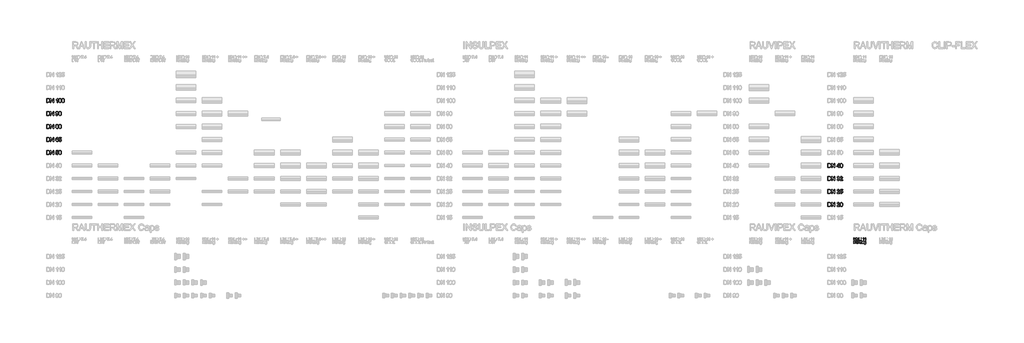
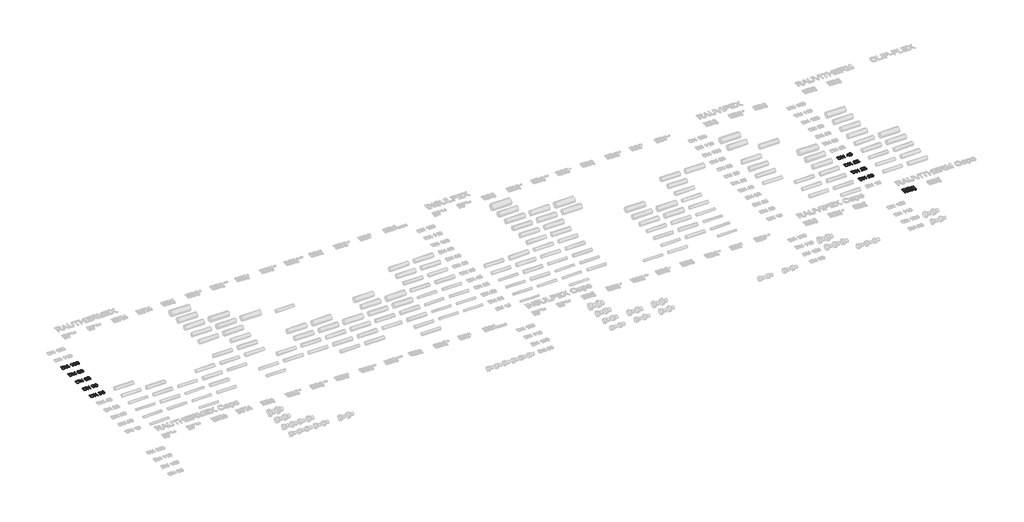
# One storey, part 29 of 44: 10 proxies.
"""IFC4 building model written with IfcOpenShell, lengths in millimetres."""

from ifc_helpers import new_model, si_unit, origin, origin_with_axes, place, context, project, spatial, polyline, outline, extrude, element, save

model = new_model("IFC4")

# Units and contexts
model_context = context("Model", 3, world=origin())
ifc_project = project(units=[si_unit("LENGTHUNIT", "METRE", prefix="MILLI")], contexts=[model_context])

# Site, building, storey
site = spatial("IfcSite", under=ifc_project)
building = spatial("IfcBuilding", under=site)
storey = spatial("IfcBuildingStorey", under=building, Name="REHAU Starting view", Elevation=0.0)

# Proxies
placement = place(None, origin())
element("IfcBuildingElementProxy", 1, Name="100", ObjectType="100", at=placement, inside=storey, context=model_context, shape_type="SweptSolid", body=[
    extrude(outline(polyline([(31076.9118625, 13222.431128), (31089.4689012, 13222.431128), (31089.4689012, 13164.477451), (31086.0598614, 13140.4547567), (31073.7726028, 13125.9847316), (31063.5086951, 13121.8000739), (31050.4734097, 13120.405188), (31027.529836, 13125.2612303), (31019.8901532, 13131.2055902), (31014.8011189, 13139.3265853), (31010.9874089, 13164.477451), (31010.9874089, 13222.431128), (31023.5444477, 13222.431128), (31023.5444477, 13164.9189094), (31026.0215198, 13145.7767829), (31034.5318566, 13136.2976902), (31049.2961874, 13132.9622268), (31062.067824, 13134.6115644), (31070.5597667, 13139.5595772), (31075.3238385, 13149.1980855), (31076.9118625, 13164.9189094), (31076.9118625, 13222.431128)])), origin_with_axes(), (0.0, 0.0, 1.0), 20.0),
    extrude(outline(polyline([(31111.4437191, 13121.9748178), (31111.4437191, 13222.431128), (31124.8836746, 13222.431128), (31177.3681726, 13142.8459897), (31177.3681726, 13222.431128), (31189.9252114, 13222.431128), (31189.9252114, 13121.9748178), (31176.4852558, 13121.9748178), (31124.0007578, 13201.5844816), (31124.0007578, 13121.9748178), (31111.4437191, 13121.9748178)])), origin_with_axes(), (0.0, 0.0, 1.0), 20.0),
    extrude(outline(polyline([(31207.1911397, 13170.8785977), (31210.5388658, 13193.0925389), (31220.5820443, 13209.8986147), (31235.9165921, 13220.4752221), (31255.1384264, 13224.0007578), (31268.3147332, 13222.3452889), (31280.1298766, 13217.3788819), (31289.9400631, 13209.4510249), (31297.1014993, 13198.9112058), (31301.479295, 13186.2683279), (31302.9385603, 13172.0312947), (31301.402653, 13157.6041891), (31296.794931, 13144.7835015), (31289.369846, 13134.2252883), (31279.3818499, 13126.5856055), (31267.667874, 13121.9502924), (31255.06485, 13120.405188), (31241.6862081, 13122.1127736), (31229.8036197, 13127.2355304), (31220.0179586, 13135.3105402), (31212.9300988, 13145.8748848), (31207.1911397, 13170.8785977)]), holes=[polyline([(31219.7481785, 13170.7559704), (31222.2589731, 13155.0412778), (31229.7913569, 13143.0667189), (31241.1129253, 13135.4883498), (31254.9912736, 13132.9622268), (31269.071957, 13135.5128753), (31280.4119195, 13143.1648208), (31287.889121, 13155.5072617), (31290.3815215, 13172.1293965), (31286.1140904, 13192.8534156), (31273.6428907, 13206.575414), (31255.2120028, 13211.4437191), (31241.7046022, 13209.0984714), (31230.2205526, 13202.0627282), (31222.366272, 13189.5455433), (31219.7481785, 13170.7559704)])]), origin_with_axes(), (0.0, 0.0, 1.0), 20.0),
    extrude(outline(polyline([(31401.8252406, 13121.9748178), (31389.2682018, 13121.9748178), (31389.2682018, 13200.2601064), (31377.3733507, 13191.7865578), (31364.1541243, 13185.4467247), (31364.1541243, 13197.3170505), (31382.5604868, 13209.0647488), (31393.7318367, 13222.431128), (31401.8252406, 13222.431128), (31401.8252406, 13121.9748178)])), origin_with_axes(), (0.0, 0.0, 1.0), 20.0),
    extrude(outline(polyline([(31478.7371031, 13121.9748178), (31466.1800643, 13121.9748178), (31466.1800643, 13200.2601064), (31454.2852131, 13191.7865578), (31441.0659868, 13185.4467247), (31441.0659868, 13197.3170505), (31459.4723492, 13209.0647488), (31470.6436992, 13222.431128), (31478.7371031, 13222.431128), (31478.7371031, 13121.9748178)])), origin_with_axes(), (0.0, 0.0, 1.0), 20.0),
    extrude(outline(polyline([(31010.9874089, 13000.0), (31010.9874089, 13100.4563101), (31023.5444477, 13100.4563101), (31023.5444477, 13059.6459342), (31076.9118625, 13059.6459342), (31076.9118625, 13100.4563101), (31089.4689012, 13100.4563101), (31089.4689012, 13000.0), (31076.9118625, 13000.0), (31076.9118625, 13047.0888954), (31023.5444477, 13047.0888954), (31023.5444477, 13000.0), (31010.9874089, 13000.0)])), origin_with_axes(), (0.0, 0.0, 1.0), 20.0),
    extrude(outline(polyline([(31161.5247213, 13021.9748178), (31173.8365055, 13020.405188), (31169.4004617, 13011.1284304), (31162.321799, 13004.1938547), (31152.7599328, 12999.8712413), (31140.8742787, 12998.4303702), (31126.1406048, 13000.9166393), (31114.803708, 13008.3754468), (31107.5748268, 13020.3224146), (31105.1651997, 13036.2731647), (31107.5993522, 13052.7604095), (31114.9018098, 13065.0905877), (31126.0854225, 13072.7793214), (31140.1630402, 13075.3422326), (31153.8022651, 13072.7854527), (31164.7007692, 13065.1151131), (31171.846877, 13052.8094604), (31174.2289129, 13036.3467411), (31174.1553365, 13032.9622268), (31117.7222385, 13032.9622268), (31119.8958079, 13023.5628418), (31124.9449883, 13016.6527916), (31132.2321175, 13012.4037546), (31141.1195333, 13010.9874089), (31153.4313175, 13013.6116338), (31161.5247213, 13021.9748178)]), holes=[polyline([(31117.7222385, 13045.5192655), (31161.6718741, 13045.5192655), (31156.6441535, 13056.8990819), (31149.3233018, 13061.3136659), (31140.1139892, 13062.7851938), (31124.6506827, 13058.088567), (31119.7854433, 13052.5979283), (31117.7222385, 13045.5192655)])]), origin_with_axes(), (0.0, 0.0, 1.0), 20.0),
    extrude(outline(polyline([(31233.8748471, 13009.4177791), (31221.697953, 13000.9074423), (31208.2457347, 12998.4303702), (31197.7519008, 12999.9202922), (31190.0110505, 13004.3900585), (31185.2377816, 13011.1774813), (31183.646692, 13019.6203731), (31186.0501877, 13029.5531869), (31192.3654953, 13036.7636741), (31201.157875, 13040.8839524), (31212.0226566, 13042.7724133), (31233.8012707, 13047.0888954), (31233.8748471, 13049.8847985), (31230.4167563, 13059.1554248), (31216.5353424, 13062.7851938), (31203.8311508, 13060.3694354), (31197.7733606, 13051.7977849), (31185.2163218, 13053.3674148), (31190.6487126, 13065.6301479), (31201.5870706, 13072.8161096), (31218.1540231, 13075.3422326), (31233.372075, 13073.1104152), (31241.968251, 13067.5063461), (31245.8187492, 13058.9837466), (31246.4318858, 13047.9963376), (31246.4318858, 13032.3736156), (31247.069548, 13010.5582133), (31249.5711455, 13000.0), (31237.0141068, 13000.0), (31233.8748471, 13009.4177791)]), holes=[polyline([(31233.8748471, 13034.5318566), (31213.6168119, 13030.6813584), (31202.8133439, 13028.6457447), (31197.9205134, 13025.3348067), (31196.2037308, 13020.5032899), (31199.9438644, 13013.7097357), (31210.9190106, 13010.9874089), (31223.6232021, 13013.9917785), (31231.8147079, 13021.2635793), (31233.8012707, 13030.975664), (31233.8748471, 13034.5318566)])]), origin_with_axes(), (0.0, 0.0, 1.0), 20.0),
    extrude(outline(polyline([(31290.3815215, 13010.4723741), (31291.9511514, 12999.632118), (31282.5578978, 12998.4303702), (31272.0364727, 13000.5150348), (31266.7880229, 13005.9842138), (31265.267444, 13020.2335097), (31265.267444, 13061.215564), (31255.8496649, 13061.215564), (31255.8496649, 13073.7726028), (31265.267444, 13073.7726028), (31265.267444, 13091.7007187), (31277.8244828, 13099.082884), (31277.8244828, 13073.7726028), (31290.3815215, 13073.7726028), (31290.3815215, 13061.215564), (31277.8244828, 13061.215564), (31277.8244828, 13020.6013917), (31278.4866703, 13014.1266686), (31280.6326487, 13011.8335375), (31284.9123425, 13010.9874089), (31290.3815215, 13010.4723741)])), origin_with_axes(), (0.0, 0.0, 1.0), 20.0),
    extrude(outline(polyline([(31302.9385603, 13087.8992714), (31302.9385603, 13100.4563101), (31315.4955991, 13100.4563101), (31315.4955991, 13087.8992714), (31302.9385603, 13087.8992714)])), origin_with_axes(), (0.0, 0.0, 1.0), 20.0),
    extrude(outline(polyline([(31302.9385603, 13000.0), (31302.9385603, 13073.7726028), (31315.4955991, 13073.7726028), (31315.4955991, 13000.0), (31302.9385603, 13000.0)])), origin_with_axes(), (0.0, 0.0, 1.0), 20.0),
    extrude(outline(polyline([(31334.3311572, 13000.0), (31334.3311572, 13073.7726028), (31346.888196, 13073.7726028), (31346.888196, 13063.4719069), (31356.4899161, 13072.3746512), (31369.5987778, 13075.3422326), (31381.4568408, 13072.9509996), (31389.5502447, 13066.6724803), (31393.3149038, 13057.4386422), (31393.9770914, 13045.2985363), (31393.9770914, 13000.0), (31381.4200526, 13000.0), (31381.4200526, 13043.6062792), (31379.9730501, 13054.7163154), (31374.8594904, 13060.5901646), (31366.2387889, 13062.7851938), (31352.6148924, 13057.8555751), (31348.3198701, 13050.712533), (31346.888196, 13039.1426443), (31346.888196, 13000.0), (31334.3311572, 13000.0)])), origin_with_axes(), (0.0, 0.0, 1.0), 20.0),
    extrude(outline(polyline([(31408.10376, 12993.7214806), (31420.6607988, 12992.1518508), (31424.7320262, 12985.5299749), (31436.9211829, 12982.7340717), (31449.7725273, 12985.8978569), (31455.9038939, 12994.7760757), (31456.7622852, 13009.4177791), (31447.9208546, 13002.3544448), (31437.1419121, 13000.0), (31424.1955316, 13002.7407209), (31414.5416949, 13010.9628835), (31408.5360213, 13023.0171502), (31406.5341301, 13037.2541834), (31410.127111, 13056.7151409), (31420.5259087, 13070.4861903), (31436.5287755, 13075.3422326), (31447.7307822, 13072.5953804), (31456.7622852, 13064.3548237), (31456.7622852, 13073.7726028), (31469.319324, 13073.7726028), (31469.319324, 13010.0799667), (31465.8857587, 12985.6893904), (31455.0087144, 12974.3463622), (31436.6759283, 12970.1770329), (31424.9926092, 12971.6454952), (31415.7924937, 12976.0508821), (31409.8910533, 12983.4054563), (31408.10376, 12993.7214806)]), holes=[polyline([(31419.0911689, 13038.1125747), (31420.4308725, 13026.5948026), (31424.4499833, 13018.6761426), (31430.4924451, 13014.0868147), (31437.9022016, 13012.5570388), (31445.2567758, 13014.0776177), (31451.3298944, 13018.6393544), (31455.4041875, 13026.4568468), (31456.7622852, 13037.7446927), (31455.3643336, 13048.6309341), (31451.1704789, 13056.4698863), (31445.0084555, 13061.2063669), (31437.7059979, 13062.7851938), (31430.5353646, 13061.2308924), (31424.5235597, 13056.5679881), (31420.4492666, 13048.8455319), (31419.0911689, 13038.1125747)])]), origin_with_axes(), (0.0, 0.0, 1.0), 20.0),
])
element("IfcBuildingElementProxy", 2, Name="150", ObjectType="150", at=placement, inside=storey, context=model_context, shape_type="SweptSolid", body=[
    extrude(outline(polyline([(16.4811134, 16425.0), (16.4811134, 16575.6844652), (68.4628393, 16575.6844652), (95.3550131, 16573.5139615), (117.5015093, 16562.735019), (127.9217668, 16551.2571007), (135.343786, 16536.9832793), (139.7859611, 16520.1894663), (141.2666861, 16501.151573), (137.2567724, 16470.7461261), (126.9560765, 16448.8019651), (113.1972899, 16435.135149), (95.1894663, 16427.575174), (70.9644369, 16425.0), (16.4811134, 16425.0)]), holes=[polyline([(35.3166715, 16443.8355582), (68.6467803, 16443.8355582), (92.8902038, 16446.5578849), (106.8697196, 16454.2466186), (118.3292437, 16472.9534181), (122.431128, 16501.4458786), (120.4215726, 16521.9736939), (114.3929064, 16537.1304321), (105.4855636, 16547.5414926), (94.8399784, 16553.8322747), (68.1317455, 16556.8489071), (35.3166715, 16556.8489071), (35.3166715, 16443.8355582)])]), origin_with_axes(), (0.0, 0.0, 1.0), 20.0),
    extrude(outline(polyline([(167.1655786, 16425.0), (167.1655786, 16575.6844652), (187.3255119, 16575.6844652), (266.0522589, 16456.3067578), (266.0522589, 16575.6844652), (284.8878171, 16575.6844652), (284.8878171, 16425.0), (264.7278837, 16425.0), (186.0011368, 16544.4144956), (186.0011368, 16425.0), (167.1655786, 16425.0)])), origin_with_axes(), (0.0, 0.0, 1.0), 20.0),
    extrude(outline(polyline([(369.6478288, 16465.0255611), (388.4833869, 16467.3800058), (391.9414777, 16456.072233), (397.9747424, 16447.9742306), (406.5555899, 16443.1043927), (417.6564291, 16441.4811134), (431.1576983, 16443.7389891), (441.2744532, 16450.5126164), (447.5928265, 16461.0202459), (449.6989509, 16474.4801284), (447.7261837, 16487.1536631), (441.8078821, 16496.8473537), (431.8980609, 16503.00018), (417.9507347, 16505.0511222), (401.414439, 16501.7769724), (390.8378317, 16493.2788983), (372.0022735, 16495.6333431), (388.4833869, 16573.3300205), (461.4711747, 16573.3300205), (461.4711747, 16554.4944623), (403.7137015, 16554.4944623), (395.6570858, 16512.9973732), (409.1123698, 16521.1643535), (423.2114473, 16523.8866803), (440.8100022, 16520.511363), (455.4195159, 16510.3854111), (465.2557608, 16494.9527614), (468.5345091, 16475.6573507), (465.582256, 16456.8217926), (456.725497, 16440.7085612), (439.766137, 16427.1613067), (417.5828527, 16422.6455552), (399.0829869, 16425.5472245), (384.3447145, 16434.2522322), (374.2417552, 16447.7489029), (369.6478288, 16465.0255611)])), origin_with_axes(), (0.0, 0.0, 1.0), 20.0),
    extrude(outline(polyline([(485.0156224, 16499.128222), (486.3997784, 16523.2474853), (490.5522465, 16542.4831152), (497.4316398, 16557.1294171), (506.9965717, 16567.4806967), (519.31602, 16573.6335231), (534.4589626, 16575.6844652), (556.4583059, 16570.8284229), (571.6518323, 16556.830513), (580.4810002, 16534.5368641), (583.9023027, 16499.128222), (582.5319423, 16475.1469145), (578.420861, 16455.9572699), (571.5828544, 16441.2971724), (562.0317181, 16430.904506), (549.6846787, 16424.7102929), (534.4589626, 16422.6455552), (514.8876404, 16426.2324047), (500.0252078, 16436.992953), (488.7680188, 16462.4779783), (485.0156224, 16499.128222)]), holes=[polyline([(503.8511806, 16499.1650102), (506.0584726, 16469.536714), (512.6803485, 16452.3888145), (522.5395859, 16444.2080387), (534.4589626, 16441.4811134), (546.3783392, 16444.2172357), (556.2375767, 16452.4256027), (562.8594526, 16469.5826993), (565.0667446, 16499.1650102), (562.933029, 16528.1265203), (556.5318823, 16545.407777), (546.6910389, 16553.9886246), (534.2382334, 16556.8489071), (522.4476155, 16554.3289154), (512.9746541, 16546.7689404), (506.132049, 16528.4116288), (503.8511806, 16499.1650102)])]), origin_with_axes(), (0.0, 0.0, 1.0), 20.0),
])
element("IfcBuildingElementProxy", 3, Name="150", ObjectType="150", at=placement, inside=storey, context=model_context, shape_type="SweptSolid", body=[
    extrude(outline(polyline([(16.4811134, 16925.0), (16.4811134, 17075.6844652), (68.4628393, 17075.6844652), (95.3550131, 17073.5139615), (117.5015093, 17062.735019), (127.9217668, 17051.2571007), (135.343786, 17036.9832793), (139.7859611, 17020.1894663), (141.2666861, 17001.151573), (137.2567724, 16970.7461261), (126.9560765, 16948.8019651), (113.1972899, 16935.135149), (95.1894663, 16927.575174), (70.9644369, 16925.0), (16.4811134, 16925.0)]), holes=[polyline([(35.3166715, 16943.8355582), (68.6467803, 16943.8355582), (92.8902038, 16946.5578849), (106.8697196, 16954.2466186), (118.3292437, 16972.9534181), (122.431128, 17001.4458786), (120.4215726, 17021.9736939), (114.3929064, 17037.1304321), (105.4855636, 17047.5414926), (94.8399784, 17053.8322747), (68.1317455, 17056.8489071), (35.3166715, 17056.8489071), (35.3166715, 16943.8355582)])]), origin_with_axes(), (0.0, 0.0, 1.0), 20.0),
    extrude(outline(polyline([(167.1655786, 16925.0), (167.1655786, 17075.6844652), (187.3255119, 17075.6844652), (266.0522589, 16956.3067578), (266.0522589, 17075.6844652), (284.8878171, 17075.6844652), (284.8878171, 16925.0), (264.7278837, 16925.0), (186.0011368, 17044.4144956), (186.0011368, 16925.0), (167.1655786, 16925.0)])), origin_with_axes(), (0.0, 0.0, 1.0), 20.0),
    extrude(outline(polyline([(466.1800643, 17035.6589041), (447.3445061, 17033.3044594), (440.2075954, 17049.0130206), (431.6635361, 17054.8899354), (421.3352491, 17056.8489071), (404.3391009, 17052.2871703), (391.4816252, 17035.1622635), (387.5774775, 17021.1321639), (386.1289421, 17001.5930314), (402.7388142, 17016.6210109), (423.3218118, 17021.5322355), (440.7226302, 17018.1753123), (455.3275454, 17008.1045427), (465.2327682, 16992.7178783), (468.5345091, 16973.4132706), (466.9802076, 16959.9257969), (462.3173033, 16947.4224076), (454.9320723, 16936.8182091), (445.2107906, 16929.0283078), (433.5949166, 16924.2412434), (420.5259087, 16922.6455552), (399.1565633, 16926.8761982), (382.1374225, 16939.568127), (371.0043936, 16961.9721405), (367.293384, 16995.3390375), (371.4136623, 17032.8538039), (383.7744974, 17058.504376), (400.6510839, 17071.3894429), (422.5124715, 17075.6844652), (439.0395701, 17073.0265178), (452.2741249, 17065.0526756), (461.5447511, 17052.3883379), (466.1800643, 17035.6589041)]), holes=[polyline([(386.1289421, 16973.7075762), (390.4883438, 16957.3920097), (402.0766266, 16945.5462094), (419.0543807, 16941.4811134), (431.4841936, 16943.5872378), (441.2560591, 16949.9056111), (447.588228, 16959.8384249), (449.6989509, 16972.7878712), (447.6158191, 16985.2176841), (441.3664237, 16994.695244), (431.4290113, 17000.696319), (418.2818285, 17002.6966774), (405.8704097, 17000.696319), (395.4915389, 16994.695244), (388.4695913, 16985.4476103), (386.1289421, 16973.7075762)])]), origin_with_axes(), (0.0, 0.0, 1.0), 20.0),
    extrude(outline(polyline([(485.0156224, 16965.0255611), (503.8511806, 16967.3800058), (507.3092713, 16956.072233), (513.3425361, 16947.9742306), (521.9233836, 16943.1043927), (533.0242228, 16941.4811134), (546.525492, 16943.7389891), (556.6422469, 16950.5126164), (562.9606202, 16961.0202459), (565.0667446, 16974.4801284), (563.0939774, 16987.1536631), (557.1756758, 16996.8473537), (547.2658545, 17003.00018), (533.3185284, 17005.0511222), (516.7822327, 17001.7769724), (506.2056254, 16993.2788983), (487.3700672, 16995.6333431), (503.8511806, 17073.3300205), (576.8389684, 17073.3300205), (576.8389684, 17054.4944623), (519.0814952, 17054.4944623), (511.0248795, 17012.9973732), (524.4801635, 17021.1643535), (538.5792409, 17023.8866803), (556.1777959, 17020.511363), (570.7873096, 17010.3854111), (580.6235545, 16994.9527614), (583.9023027, 16975.6573507), (580.9500497, 16956.8217926), (572.0932907, 16940.7085612), (555.1339307, 16927.1613067), (532.9506464, 16922.6455552), (514.4507806, 16925.5472245), (499.7125081, 16934.2522322), (489.6095489, 16947.7489029), (485.0156224, 16965.0255611)])), origin_with_axes(), (0.0, 0.0, 1.0), 20.0),
])
element("IfcBuildingElementProxy", 4, Name="150", ObjectType="150", at=placement, inside=storey, context=model_context, shape_type="SweptSolid", body=[
    extrude(outline(polyline([(16.4811134, 17425.0), (16.4811134, 17575.6844652), (68.4628393, 17575.6844652), (95.3550131, 17573.5139615), (117.5015093, 17562.735019), (127.9217668, 17551.2571007), (135.343786, 17536.9832793), (139.7859611, 17520.1894663), (141.2666861, 17501.151573), (137.2567724, 17470.7461261), (126.9560765, 17448.8019651), (113.1972899, 17435.135149), (95.1894663, 17427.575174), (70.9644369, 17425.0), (16.4811134, 17425.0)]), holes=[polyline([(35.3166715, 17443.8355582), (68.6467803, 17443.8355582), (92.8902038, 17446.5578849), (106.8697196, 17454.2466186), (118.3292437, 17472.9534181), (122.431128, 17501.4458786), (120.4215726, 17521.9736939), (114.3929064, 17537.1304321), (105.4855636, 17547.5414926), (94.8399784, 17553.8322747), (68.1317455, 17556.8489071), (35.3166715, 17556.8489071), (35.3166715, 17443.8355582)])]), origin_with_axes(), (0.0, 0.0, 1.0), 20.0),
    extrude(outline(polyline([(167.1655786, 17425.0), (167.1655786, 17575.6844652), (187.3255119, 17575.6844652), (266.0522589, 17456.3067578), (266.0522589, 17575.6844652), (284.8878171, 17575.6844652), (284.8878171, 17425.0), (264.7278837, 17425.0), (186.0011368, 17544.4144956), (186.0011368, 17425.0), (167.1655786, 17425.0)])), origin_with_axes(), (0.0, 0.0, 1.0), 20.0),
    extrude(outline(polyline([(397.0918256, 17507.9941781), (379.9301305, 17519.6928256), (374.3567183, 17537.9029843), (377.3917448, 17552.6274612), (386.4968241, 17564.7951582), (400.6510839, 17572.9621385), (418.8336515, 17575.6844652), (437.1265837, 17572.8977591), (451.4647845, 17564.5376408), (460.7354108, 17552.1768057), (463.8256195, 17537.3879495), (458.3257837, 17519.6376433), (441.6423352, 17507.9941781), (453.2352166, 17502.0206942), (461.6735098, 17493.223716), (466.8192593, 17482.0263078), (468.5345091, 17468.8515338), (465.1316006, 17450.8437102), (454.9228752, 17435.9628835), (439.1591317, 17425.9748873), (419.0911689, 17422.6455552), (399.0232061, 17425.9886829), (383.2594626, 17436.0180658), (373.0507372, 17451.0414467), (369.6478288, 17469.3665686), (371.4320564, 17483.0517788), (376.7847395, 17494.3089679), (385.4299663, 17502.7518597), (397.0918256, 17507.9941781)]), holes=[polyline([(393.1922764, 17537.3511613), (394.861541, 17529.1289987), (399.8693347, 17522.5623051), (408.0685046, 17518.2580858), (419.3118981, 17516.823346), (430.2931757, 17518.2488887), (438.3681855, 17522.5255169), (443.3345924, 17528.8714813), (444.9900614, 17536.5050327), (443.2794101, 17544.4282912), (438.1474563, 17550.9811892), (429.9620819, 17555.3819776), (419.0911689, 17556.8489071), (408.1512781, 17555.4141673), (399.9796993, 17551.1099479), (394.8891321, 17544.8007717), (393.1922764, 17537.3511613)]), polyline([(388.4833869, 17470.0287562), (391.628778, 17455.8469053), (402.7572083, 17445.2335097), (419.2383217, 17441.4811134), (432.0590092, 17443.4538806), (441.6791234, 17449.3721822), (447.693994, 17458.3347073), (449.6989509, 17469.440145), (447.6296147, 17480.7341223), (441.421606, 17489.8943839), (431.5807626, 17495.9644369), (418.6129223, 17497.9877878), (405.9715773, 17495.992028), (396.4480321, 17490.0047485), (390.4745482, 17481.0192308), (388.4833869, 17470.0287562)])]), origin_with_axes(), (0.0, 0.0, 1.0), 20.0),
    extrude(outline(polyline([(485.0156224, 17499.128222), (486.3997784, 17523.2474853), (490.5522465, 17542.4831152), (497.4316398, 17557.1294171), (506.9965717, 17567.4806967), (519.31602, 17573.6335231), (534.4589626, 17575.6844652), (556.4583059, 17570.8284229), (571.6518323, 17556.830513), (580.4810002, 17534.5368641), (583.9023027, 17499.128222), (582.5319423, 17475.1469145), (578.420861, 17455.9572699), (571.5828544, 17441.2971724), (562.0317181, 17430.904506), (549.6846787, 17424.7102929), (534.4589626, 17422.6455552), (514.8876404, 17426.2324047), (500.0252078, 17436.992953), (488.7680188, 17462.4779783), (485.0156224, 17499.128222)]), holes=[polyline([(503.8511806, 17499.1650102), (506.0584726, 17469.536714), (512.6803485, 17452.3888145), (522.5395859, 17444.2080387), (534.4589626, 17441.4811134), (546.3783392, 17444.2172357), (556.2375767, 17452.4256027), (562.8594526, 17469.5826993), (565.0667446, 17499.1650102), (562.933029, 17528.1265203), (556.5318823, 17545.407777), (546.6910389, 17553.9886246), (534.2382334, 17556.8489071), (522.4476155, 17554.3289154), (512.9746541, 17546.7689404), (506.132049, 17528.4116288), (503.8511806, 17499.1650102)])]), origin_with_axes(), (0.0, 0.0, 1.0), 20.0),
])
element("IfcBuildingElementProxy", 5, Name="150", ObjectType="150", at=placement, inside=storey, context=model_context, shape_type="SweptSolid", body=[
    extrude(outline(polyline([(16.4811134, 17925.0), (16.4811134, 18075.6844652), (68.4628393, 18075.6844652), (95.3550131, 18073.5139615), (117.5015093, 18062.735019), (127.9217668, 18051.2571007), (135.343786, 18036.9832793), (139.7859611, 18020.1894663), (141.2666861, 18001.151573), (137.2567724, 17970.7461261), (126.9560765, 17948.8019651), (113.1972899, 17935.135149), (95.1894663, 17927.575174), (70.9644369, 17925.0), (16.4811134, 17925.0)]), holes=[polyline([(35.3166715, 17943.8355582), (68.6467803, 17943.8355582), (92.8902038, 17946.5578849), (106.8697196, 17954.2466186), (118.3292437, 17972.9534181), (122.431128, 18001.4458786), (120.4215726, 18021.9736939), (114.3929064, 18037.1304321), (105.4855636, 18047.5414926), (94.8399784, 18053.8322747), (68.1317455, 18056.8489071), (35.3166715, 18056.8489071), (35.3166715, 17943.8355582)])]), origin_with_axes(), (0.0, 0.0, 1.0), 20.0),
    extrude(outline(polyline([(167.1655786, 17925.0), (167.1655786, 18075.6844652), (187.3255119, 18075.6844652), (266.0522589, 17956.3067578), (266.0522589, 18075.6844652), (284.8878171, 18075.6844652), (284.8878171, 17925.0), (264.7278837, 17925.0), (186.0011368, 18044.4144956), (186.0011368, 17925.0), (167.1655786, 17925.0)])), origin_with_axes(), (0.0, 0.0, 1.0), 20.0),
    extrude(outline(polyline([(372.0022735, 17962.6711163), (390.8378317, 17965.0255611), (394.0567991, 17954.3339906), (399.2991176, 17947.0545256), (406.4360283, 17942.8744664), (415.3387726, 17941.4811134), (430.5874813, 17945.0679628), (440.9249653, 17954.6512888), (447.0869887, 17971.0220376), (449.8093155, 17992.8742281), (449.6989509, 17996.5530481), (434.6341832, 17982.2792266), (413.9776092, 17976.7977849), (396.8021185, 17980.1455111), (382.5053045, 17990.1886895), (372.8621977, 18005.7041127), (369.6478288, 18025.4685729), (373.0185475, 18045.8860236), (383.1307039, 18061.8888904), (398.3196318, 18072.2355715), (416.9206651, 18075.6844652), (430.9691588, 18073.7162966), (443.7576567, 18067.8117905), (454.4538257, 18058.2652528), (462.2253328, 18045.3709888), (466.957215, 18027.5471062), (468.5345091, 18003.2117122), (466.9618135, 17977.4093887), (462.2437269, 17957.4655861), (454.421636, 17942.4789933), (443.5369275, 17931.5482995), (430.0586509, 17924.8712413), (414.4558558, 17922.6455552), (398.3518214, 17925.271313), (385.5035427, 17933.1485862), (376.518025, 17945.7807342), (372.0022735, 17962.6711163)]), holes=[polyline([(449.6989509, 18025.9100313), (447.6664029, 18038.6755365), (441.5687588, 18048.4979858), (432.1049945, 18054.7611767), (419.9740857, 18056.8489071), (407.3925215, 18054.6002284), (397.3125548, 18047.8541923), (390.6906789, 18037.5305038), (388.4833869, 18024.5488679), (390.5711172, 18012.9100013), (396.8343082, 18003.6715647), (406.6659545, 17997.6428985), (419.4590509, 17995.6333431), (431.4933907, 17997.6428985), (441.1824827, 18003.6715647), (447.5698339, 18013.2502921), (449.6989509, 18025.9100313)])]), origin_with_axes(), (0.0, 0.0, 1.0), 20.0),
    extrude(outline(polyline([(485.0156224, 17999.128222), (486.3997784, 18023.2474853), (490.5522465, 18042.4831152), (497.4316398, 18057.1294171), (506.9965717, 18067.4806967), (519.31602, 18073.6335231), (534.4589626, 18075.6844652), (556.4583059, 18070.8284229), (571.6518323, 18056.830513), (580.4810002, 18034.5368641), (583.9023027, 17999.128222), (582.5319423, 17975.1469145), (578.420861, 17955.9572699), (571.5828544, 17941.2971724), (562.0317181, 17930.904506), (549.6846787, 17924.7102929), (534.4589626, 17922.6455552), (514.8876404, 17926.2324047), (500.0252078, 17936.992953), (488.7680188, 17962.4779783), (485.0156224, 17999.128222)]), holes=[polyline([(503.8511806, 17999.1650102), (506.0584726, 17969.536714), (512.6803485, 17952.3888145), (522.5395859, 17944.2080387), (534.4589626, 17941.4811134), (546.3783392, 17944.2172357), (556.2375767, 17952.4256027), (562.8594526, 17969.5826993), (565.0667446, 17999.1650102), (562.933029, 18028.1265203), (556.5318823, 18045.407777), (546.6910389, 18053.9886246), (534.2382334, 18056.8489071), (522.4476155, 18054.3289154), (512.9746541, 18046.7689404), (506.132049, 18028.4116288), (503.8511806, 17999.1650102)])]), origin_with_axes(), (0.0, 0.0, 1.0), 20.0),
])
element("IfcBuildingElementProxy", 6, Name="150", ObjectType="150", at=placement, inside=storey, context=model_context, shape_type="SweptSolid", body=[
    extrude(outline(polyline([(16.4811134, 18425.0), (16.4811134, 18575.6844652), (68.4628393, 18575.6844652), (95.3550131, 18573.5139615), (117.5015093, 18562.735019), (127.9217668, 18551.2571007), (135.343786, 18536.9832793), (139.7859611, 18520.1894663), (141.2666861, 18501.151573), (137.2567724, 18470.7461261), (126.9560765, 18448.8019651), (113.1972899, 18435.135149), (95.1894663, 18427.575174), (70.9644369, 18425.0), (16.4811134, 18425.0)]), holes=[polyline([(35.3166715, 18443.8355582), (68.6467803, 18443.8355582), (92.8902038, 18446.5578849), (106.8697196, 18454.2466186), (118.3292437, 18472.9534181), (122.431128, 18501.4458786), (120.4215726, 18521.9736939), (114.3929064, 18537.1304321), (105.4855636, 18547.5414926), (94.8399784, 18553.8322747), (68.1317455, 18556.8489071), (35.3166715, 18556.8489071), (35.3166715, 18443.8355582)])]), origin_with_axes(), (0.0, 0.0, 1.0), 20.0),
    extrude(outline(polyline([(167.1655786, 18425.0), (167.1655786, 18575.6844652), (187.3255119, 18575.6844652), (266.0522589, 18456.3067578), (266.0522589, 18575.6844652), (284.8878171, 18575.6844652), (284.8878171, 18425.0), (264.7278837, 18425.0), (186.0011368, 18544.4144956), (186.0011368, 18425.0), (167.1655786, 18425.0)])), origin_with_axes(), (0.0, 0.0, 1.0), 20.0),
    extrude(outline(polyline([(440.2811718, 18425.0), (421.4456137, 18425.0), (421.4456137, 18542.4279329), (403.6033369, 18529.7176099), (383.7744974, 18520.2078604), (383.7744974, 18538.0133489), (411.3840411, 18555.6348965), (428.141066, 18575.6844652), (440.2811718, 18575.6844652), (440.2811718, 18425.0)])), origin_with_axes(), (0.0, 0.0, 1.0), 20.0),
    extrude(outline(polyline([(485.0156224, 18499.128222), (486.3997784, 18523.2474853), (490.5522465, 18542.4831152), (497.4316398, 18557.1294171), (506.9965717, 18567.4806967), (519.31602, 18573.6335231), (534.4589626, 18575.6844652), (556.4583059, 18570.8284229), (571.6518323, 18556.830513), (580.4810002, 18534.5368641), (583.9023027, 18499.128222), (582.5319423, 18475.1469145), (578.420861, 18455.9572699), (571.5828544, 18441.2971724), (562.0317181, 18430.904506), (549.6846787, 18424.7102929), (534.4589626, 18422.6455552), (514.8876404, 18426.2324047), (500.0252078, 18436.992953), (488.7680188, 18462.4779783), (485.0156224, 18499.128222)]), holes=[polyline([(503.8511806, 18499.1650102), (506.0584726, 18469.536714), (512.6803485, 18452.3888145), (522.5395859, 18444.2080387), (534.4589626, 18441.4811134), (546.3783392, 18444.2172357), (556.2375767, 18452.4256027), (562.8594526, 18469.5826993), (565.0667446, 18499.1650102), (562.933029, 18528.1265203), (556.5318823, 18545.407777), (546.6910389, 18553.9886246), (534.2382334, 18556.8489071), (522.4476155, 18554.3289154), (512.9746541, 18546.7689404), (506.132049, 18528.4116288), (503.8511806, 18499.1650102)])]), origin_with_axes(), (0.0, 0.0, 1.0), 20.0),
    extrude(outline(polyline([(600.3834161, 18499.128222), (601.7675721, 18523.2474853), (605.9200402, 18542.4831152), (612.7994335, 18557.1294171), (622.3643653, 18567.4806967), (634.6838137, 18573.6335231), (649.8267563, 18575.6844652), (671.8260996, 18570.8284229), (687.019626, 18556.830513), (695.8487939, 18534.5368641), (699.2700964, 18499.128222), (697.899736, 18475.1469145), (693.7886547, 18455.9572699), (686.9506481, 18441.2971724), (677.3995118, 18430.904506), (665.0524724, 18424.7102929), (649.8267563, 18422.6455552), (630.2554341, 18426.2324047), (615.3930015, 18436.992953), (604.1358125, 18462.4779783), (600.3834161, 18499.128222)]), holes=[polyline([(619.2189743, 18499.1650102), (621.4262663, 18469.536714), (628.0481422, 18452.3888145), (637.9073796, 18444.2080387), (649.8267563, 18441.4811134), (661.7461329, 18444.2172357), (671.6053704, 18452.4256027), (678.2272463, 18469.5826993), (680.4345383, 18499.1650102), (678.3008227, 18528.1265203), (671.899676, 18545.407777), (662.0588326, 18553.9886246), (649.6060271, 18556.8489071), (637.8154091, 18554.3289154), (628.3424478, 18546.7689404), (621.4998427, 18528.4116288), (619.2189743, 18499.1650102)])]), origin_with_axes(), (0.0, 0.0, 1.0), 20.0),
])
element("IfcBuildingElementProxy", 7, Name="150", ObjectType="150", at=placement, inside=storey, context=model_context, shape_type="SweptSolid", body=[
    extrude(outline(polyline([(30016.4811134, 14425.0), (30016.4811134, 14575.6844652), (30068.4628393, 14575.6844652), (30095.3550131, 14573.5139615), (30117.5015093, 14562.735019), (30127.9217668, 14551.2571007), (30135.343786, 14536.9832793), (30139.7859611, 14520.1894663), (30141.2666861, 14501.151573), (30137.2567724, 14470.7461261), (30126.9560765, 14448.8019651), (30113.1972899, 14435.135149), (30095.1894663, 14427.575174), (30070.9644369, 14425.0), (30016.4811134, 14425.0)]), holes=[polyline([(30035.3166715, 14443.8355582), (30068.6467803, 14443.8355582), (30092.8902038, 14446.5578849), (30106.8697196, 14454.2466186), (30118.3292437, 14472.9534181), (30122.431128, 14501.4458786), (30120.4215726, 14521.9736939), (30114.3929064, 14537.1304321), (30105.4855636, 14547.5414926), (30094.8399784, 14553.8322747), (30068.1317455, 14556.8489071), (30035.3166715, 14556.8489071), (30035.3166715, 14443.8355582)])]), origin_with_axes(), (0.0, 0.0, 1.0), 20.0),
    extrude(outline(polyline([(30167.1655786, 14425.0), (30167.1655786, 14575.6844652), (30187.3255119, 14575.6844652), (30266.0522589, 14456.3067578), (30266.0522589, 14575.6844652), (30284.8878171, 14575.6844652), (30284.8878171, 14425.0), (30264.7278837, 14425.0), (30186.0011368, 14544.4144956), (30186.0011368, 14425.0), (30167.1655786, 14425.0)])), origin_with_axes(), (0.0, 0.0, 1.0), 20.0),
    extrude(outline(polyline([(30466.1800643, 14443.8355582), (30466.1800643, 14425.0), (30367.293384, 14425.0), (30369.316735, 14437.9862344), (30380.757865, 14457.9806209), (30404.3391009, 14479.8144173), (30436.8598693, 14511.1947515), (30442.9575133, 14522.0104821), (30444.9900614, 14532.5319072), (30443.0724765, 14541.9634818), (30437.3197218, 14549.8039669), (30428.4767583, 14555.087672), (30417.2885471, 14556.8489071), (30405.5393159, 14555.1290587), (30396.4112439, 14549.9695138), (30390.5205335, 14541.7749423), (30388.4833869, 14530.9500146), (30369.6478288, 14533.3044594), (30374.214164, 14551.5238152), (30384.0871971, 14564.8319464), (30398.7518931, 14572.9713355), (30417.6932173, 14575.6844652), (30436.7724973, 14572.6678329), (30451.4096022, 14563.6179358), (30460.7216152, 14550.0982725), (30463.8256195, 14533.6723414), (30460.4778934, 14515.8116705), (30449.349463, 14497.3439944), (30422.3653187, 14471.5370724), (30400.6970691, 14453.4188841), (30392.1989951, 14443.8355582), (30466.1800643, 14443.8355582)])), origin_with_axes(), (0.0, 0.0, 1.0), 20.0),
    extrude(outline(polyline([(30485.0156224, 14499.128222), (30486.3997784, 14523.2474853), (30490.5522465, 14542.4831152), (30497.4316398, 14557.1294171), (30506.9965717, 14567.4806967), (30519.31602, 14573.6335231), (30534.4589626, 14575.6844652), (30556.4583059, 14570.8284229), (30571.6518323, 14556.830513), (30580.4810002, 14534.5368641), (30583.9023027, 14499.128222), (30582.5319423, 14475.1469145), (30578.420861, 14455.9572699), (30571.5828544, 14441.2971724), (30562.0317181, 14430.904506), (30549.6846787, 14424.7102929), (30534.4589626, 14422.6455552), (30514.8876404, 14426.2324047), (30500.0252078, 14436.992953), (30488.7680188, 14462.4779783), (30485.0156224, 14499.128222)]), holes=[polyline([(30503.8511806, 14499.1650102), (30506.0584726, 14469.536714), (30512.6803485, 14452.3888145), (30522.5395859, 14444.2080387), (30534.4589626, 14441.4811134), (30546.3783392, 14444.2172357), (30556.2375767, 14452.4256027), (30562.8594526, 14469.5826993), (30565.0667446, 14499.1650102), (30562.933029, 14528.1265203), (30556.5318823, 14545.407777), (30546.6910389, 14553.9886246), (30534.2382334, 14556.8489071), (30522.4476155, 14554.3289154), (30512.9746541, 14546.7689404), (30506.132049, 14528.4116288), (30503.8511806, 14499.1650102)])]), origin_with_axes(), (0.0, 0.0, 1.0), 20.0),
])
element("IfcBuildingElementProxy", 8, Name="150", ObjectType="150", at=placement, inside=storey, context=model_context, shape_type="SweptSolid", body=[
    extrude(outline(polyline([(30016.4811134, 14925.0), (30016.4811134, 15075.6844652), (30068.4628393, 15075.6844652), (30095.3550131, 15073.5139615), (30117.5015093, 15062.735019), (30127.9217668, 15051.2571007), (30135.343786, 15036.9832793), (30139.7859611, 15020.1894663), (30141.2666861, 15001.151573), (30137.2567724, 14970.7461261), (30126.9560765, 14948.8019651), (30113.1972899, 14935.135149), (30095.1894663, 14927.575174), (30070.9644369, 14925.0), (30016.4811134, 14925.0)]), holes=[polyline([(30035.3166715, 14943.8355582), (30068.6467803, 14943.8355582), (30092.8902038, 14946.5578849), (30106.8697196, 14954.2466186), (30118.3292437, 14972.9534181), (30122.431128, 15001.4458786), (30120.4215726, 15021.9736939), (30114.3929064, 15037.1304321), (30105.4855636, 15047.5414926), (30094.8399784, 15053.8322747), (30068.1317455, 15056.8489071), (30035.3166715, 15056.8489071), (30035.3166715, 14943.8355582)])]), origin_with_axes(), (0.0, 0.0, 1.0), 20.0),
    extrude(outline(polyline([(30167.1655786, 14925.0), (30167.1655786, 15075.6844652), (30187.3255119, 15075.6844652), (30266.0522589, 14956.3067578), (30266.0522589, 15075.6844652), (30284.8878171, 15075.6844652), (30284.8878171, 14925.0), (30264.7278837, 14925.0), (30186.0011368, 15044.4144956), (30186.0011368, 14925.0), (30167.1655786, 14925.0)])), origin_with_axes(), (0.0, 0.0, 1.0), 20.0),
    extrude(outline(polyline([(30466.1800643, 14943.8355582), (30466.1800643, 14925.0), (30367.293384, 14925.0), (30369.316735, 14937.9862344), (30380.757865, 14957.9806209), (30404.3391009, 14979.8144173), (30436.8598693, 15011.1947515), (30442.9575133, 15022.0104821), (30444.9900614, 15032.5319072), (30443.0724765, 15041.9634818), (30437.3197218, 15049.8039669), (30428.4767583, 15055.087672), (30417.2885471, 15056.8489071), (30405.5393159, 15055.1290587), (30396.4112439, 15049.9695138), (30390.5205335, 15041.7749423), (30388.4833869, 15030.9500146), (30369.6478288, 15033.3044594), (30374.214164, 15051.5238152), (30384.0871971, 15064.8319464), (30398.7518931, 15072.9713355), (30417.6932173, 15075.6844652), (30436.7724973, 15072.6678329), (30451.4096022, 15063.6179358), (30460.7216152, 15050.0982725), (30463.8256195, 15033.6723414), (30460.4778934, 15015.8116705), (30449.349463, 14997.3439944), (30422.3653187, 14971.5370724), (30400.6970691, 14953.4188841), (30392.1989951, 14943.8355582), (30466.1800643, 14943.8355582)])), origin_with_axes(), (0.0, 0.0, 1.0), 20.0),
    extrude(outline(polyline([(30485.0156224, 14965.0255611), (30503.8511806, 14967.3800058), (30507.3092713, 14956.072233), (30513.3425361, 14947.9742306), (30521.9233836, 14943.1043927), (30533.0242228, 14941.4811134), (30546.525492, 14943.7389891), (30556.6422469, 14950.5126164), (30562.9606202, 14961.0202459), (30565.0667446, 14974.4801284), (30563.0939774, 14987.1536631), (30557.1756758, 14996.8473537), (30547.2658546, 15003.00018), (30533.3185284, 15005.0511222), (30516.7822327, 15001.7769724), (30506.2056254, 14993.2788983), (30487.3700672, 14995.6333431), (30503.8511806, 15073.3300205), (30576.8389684, 15073.3300205), (30576.8389684, 15054.4944623), (30519.0814952, 15054.4944623), (30511.0248795, 15012.9973732), (30524.4801635, 15021.1643535), (30538.5792409, 15023.8866803), (30556.1777959, 15020.511363), (30570.7873096, 15010.3854111), (30580.6235545, 14994.9527614), (30583.9023027, 14975.6573507), (30580.9500497, 14956.8217926), (30572.0932907, 14940.7085612), (30555.1339307, 14927.1613067), (30532.9506464, 14922.6455552), (30514.4507806, 14925.5472245), (30499.7125081, 14934.2522322), (30489.6095489, 14947.7489029), (30485.0156224, 14965.0255611)])), origin_with_axes(), (0.0, 0.0, 1.0), 20.0),
])
element("IfcBuildingElementProxy", 9, Name="150", ObjectType="150", at=placement, inside=storey, context=model_context, shape_type="SweptSolid", body=[
    extrude(outline(polyline([(30016.4811134, 15425.0), (30016.4811134, 15575.6844652), (30068.4628393, 15575.6844652), (30095.3550131, 15573.5139615), (30117.5015093, 15562.735019), (30127.9217668, 15551.2571007), (30135.343786, 15536.9832793), (30139.7859611, 15520.1894663), (30141.2666861, 15501.151573), (30137.2567724, 15470.7461261), (30126.9560765, 15448.8019651), (30113.1972899, 15435.135149), (30095.1894663, 15427.575174), (30070.9644369, 15425.0), (30016.4811134, 15425.0)]), holes=[polyline([(30035.3166715, 15443.8355582), (30068.6467803, 15443.8355582), (30092.8902038, 15446.5578849), (30106.8697196, 15454.2466186), (30118.3292437, 15472.9534181), (30122.431128, 15501.4458786), (30120.4215726, 15521.9736939), (30114.3929064, 15537.1304321), (30105.4855636, 15547.5414926), (30094.8399784, 15553.8322747), (30068.1317455, 15556.8489071), (30035.3166715, 15556.8489071), (30035.3166715, 15443.8355582)])]), origin_with_axes(), (0.0, 0.0, 1.0), 20.0),
    extrude(outline(polyline([(30167.1655786, 15425.0), (30167.1655786, 15575.6844652), (30187.3255119, 15575.6844652), (30266.0522589, 15456.3067578), (30266.0522589, 15575.6844652), (30284.8878171, 15575.6844652), (30284.8878171, 15425.0), (30264.7278837, 15425.0), (30186.0011368, 15544.4144956), (30186.0011368, 15425.0), (30167.1655786, 15425.0)])), origin_with_axes(), (0.0, 0.0, 1.0), 20.0),
    extrude(outline(polyline([(30369.6478288, 15465.0255611), (30388.4833869, 15467.3800058), (30392.7002343, 15455.5434026), (30398.8760533, 15447.5511663), (30407.3143465, 15442.9986266), (30418.3186167, 15441.4811134), (30431.2312747, 15443.5688437), (30441.2008768, 15449.8320347), (30447.5744324, 15459.1762374), (30449.6989509, 15470.5070028), (30447.5928265, 15481.2629526), (30441.2744532, 15489.9863544), (30431.7095213, 15495.7667003), (30419.8637211, 15497.6934822), (30406.6567575, 15495.6333431), (30408.7536848, 15514.4689012), (30411.7703172, 15514.248172), (30433.1442611, 15519.6560374), (30440.2627777, 15526.5170366), (30442.6356166, 15536.2843035), (30440.9157683, 15544.4190942), (30435.7562233, 15551.0179774), (30427.8835486, 15555.3911747), (30418.0243111, 15556.8489071), (30408.1466795, 15555.3773791), (30400.0716698, 15550.9627951), (30394.1763608, 15543.6051552), (30390.8378317, 15533.3044594), (30372.0022735, 15535.6589041), (30377.5480946, 15552.5722789), (30387.4165291, 15565.1998284), (30400.9177983, 15573.063306), (30417.3621235, 15575.6844652), (30440.0788367, 15570.5157232), (30455.9713389, 15556.3890546), (30461.4711747, 15537.3879495), (30456.2472504, 15520.0239194), (30440.7962066, 15507.5527197), (30452.5868246, 15502.7886479), (30461.324022, 15494.6768499), (30466.7318873, 15483.6587841), (30468.5345091, 15470.175909), (30464.9292655, 15451.8185974), (30454.1135348, 15436.4779182), (30437.7887713, 15426.103646), (30417.6564291, 15422.6455552), (30399.4462704, 15425.5978082), (30384.620626, 15434.4545673), (30374.310733, 15448.0018217), (30369.6478288, 15465.0255611)])), origin_with_axes(), (0.0, 0.0, 1.0), 20.0),
    extrude(outline(polyline([(30581.547858, 15443.8355582), (30581.547858, 15425.0), (30482.6611777, 15425.0), (30484.6845286, 15437.9862344), (30496.1256587, 15457.9806209), (30519.7068946, 15479.8144173), (30552.227663, 15511.1947515), (30558.325307, 15522.0104821), (30560.3578551, 15532.5319072), (30558.4402702, 15541.9634818), (30552.6875155, 15549.8039669), (30543.844552, 15555.087672), (30532.6563408, 15556.8489071), (30520.9071096, 15555.1290587), (30511.7790376, 15549.9695138), (30505.8883271, 15541.7749423), (30503.8511806, 15530.9500146), (30485.0156224, 15533.3044594), (30489.5819577, 15551.5238152), (30499.4549908, 15564.8319464), (30514.1196868, 15572.9713355), (30533.061011, 15575.6844652), (30552.140291, 15572.6678329), (30566.7773959, 15563.6179358), (30576.0894089, 15550.0982725), (30579.1934132, 15533.6723414), (30575.8456871, 15515.8116705), (30564.7172567, 15497.3439944), (30537.7331123, 15471.5370724), (30516.0648628, 15453.4188841), (30507.5667887, 15443.8355582), (30581.547858, 15443.8355582)])), origin_with_axes(), (0.0, 0.0, 1.0), 20.0),
])
element("IfcBuildingElementProxy", 10, Name="150", ObjectType="150", at=placement, inside=storey, context=model_context, shape_type="SweptSolid", body=[
    extrude(outline(polyline([(30016.4811134, 15925.0), (30016.4811134, 16075.6844652), (30068.4628393, 16075.6844652), (30095.3550131, 16073.5139615), (30117.5015093, 16062.735019), (30127.9217668, 16051.2571007), (30135.343786, 16036.9832793), (30139.7859611, 16020.1894663), (30141.2666861, 16001.151573), (30137.2567724, 15970.7461261), (30126.9560765, 15948.8019651), (30113.1972899, 15935.135149), (30095.1894663, 15927.575174), (30070.9644369, 15925.0), (30016.4811134, 15925.0)]), holes=[polyline([(30035.3166715, 15943.8355582), (30068.6467803, 15943.8355582), (30092.8902038, 15946.5578849), (30106.8697196, 15954.2466186), (30118.3292437, 15972.9534181), (30122.431128, 16001.4458786), (30120.4215726, 16021.9736939), (30114.3929064, 16037.1304321), (30105.4855636, 16047.5414926), (30094.8399784, 16053.8322747), (30068.1317455, 16056.8489071), (30035.3166715, 16056.8489071), (30035.3166715, 15943.8355582)])]), origin_with_axes(), (0.0, 0.0, 1.0), 20.0),
    extrude(outline(polyline([(30167.1655786, 15925.0), (30167.1655786, 16075.6844652), (30187.3255119, 16075.6844652), (30266.0522589, 15956.3067578), (30266.0522589, 16075.6844652), (30284.8878171, 16075.6844652), (30284.8878171, 15925.0), (30264.7278837, 15925.0), (30186.0011368, 16044.4144956), (30186.0011368, 15925.0), (30167.1655786, 15925.0)])), origin_with_axes(), (0.0, 0.0, 1.0), 20.0),
    extrude(outline(polyline([(30430.8633928, 15925.0), (30430.8633928, 15960.3166715), (30362.5844944, 15960.3166715), (30362.5844944, 15979.1522297), (30435.5722823, 16073.3300205), (30449.6989509, 16073.3300205), (30449.6989509, 15979.1522297), (30468.5345091, 15979.1522297), (30468.5345091, 15960.3166715), (30449.6989509, 15960.3166715), (30449.6989509, 15925.0), (30430.8633928, 15925.0)]), holes=[polyline([(30430.8633928, 15979.1522297), (30430.8633928, 16037.3511613), (30385.7610601, 15979.1522297), (30430.8633928, 15979.1522297)])]), origin_with_axes(), (0.0, 0.0, 1.0), 20.0),
    extrude(outline(polyline([(30485.0156224, 15999.128222), (30486.3997784, 16023.2474853), (30490.5522465, 16042.4831152), (30497.4316398, 16057.1294171), (30506.9965717, 16067.4806967), (30519.31602, 16073.6335231), (30534.4589626, 16075.6844652), (30556.4583059, 16070.8284229), (30571.6518323, 16056.830513), (30580.4810002, 16034.5368641), (30583.9023027, 15999.128222), (30582.5319423, 15975.1469145), (30578.420861, 15955.9572699), (30571.5828544, 15941.2971724), (30562.0317181, 15930.904506), (30549.6846787, 15924.7102929), (30534.4589626, 15922.6455552), (30514.8876404, 15926.2324047), (30500.0252078, 15936.992953), (30488.7680188, 15962.4779783), (30485.0156224, 15999.128222)]), holes=[polyline([(30503.8511806, 15999.1650102), (30506.0584726, 15969.536714), (30512.6803485, 15952.3888145), (30522.5395859, 15944.2080387), (30534.4589626, 15941.4811134), (30546.3783392, 15944.2172357), (30556.2375767, 15952.4256027), (30562.8594526, 15969.5826993), (30565.0667446, 15999.1650102), (30562.933029, 16028.1265203), (30556.5318823, 16045.407777), (30546.6910389, 16053.9886246), (30534.2382334, 16056.8489071), (30522.4476155, 16054.3289154), (30512.9746541, 16046.7689404), (30506.132049, 16028.4116288), (30503.8511806, 15999.1650102)])]), origin_with_axes(), (0.0, 0.0, 1.0), 20.0),
])

save(model, "model.ifc")
